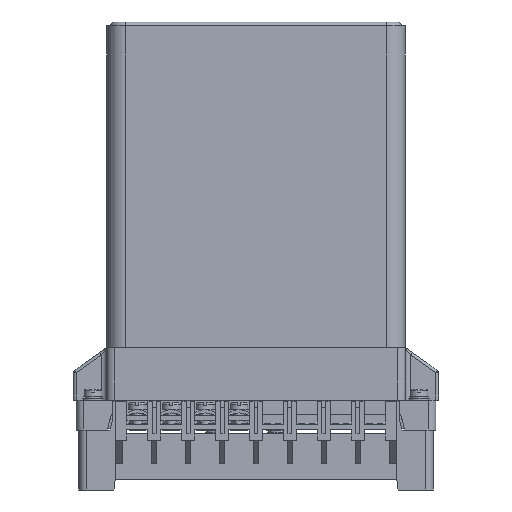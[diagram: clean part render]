
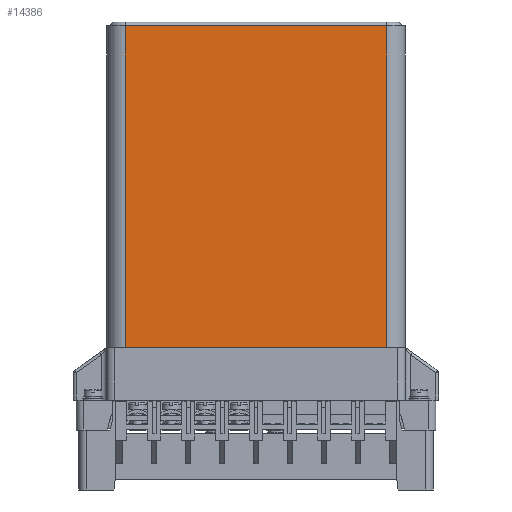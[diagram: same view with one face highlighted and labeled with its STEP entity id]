
A CAD part, left-side view. The second image highlights one B-rep face of the part: STEP entity #14386.
In plain terms, the highlighted planar face has unit normal (-1, 0, 0).
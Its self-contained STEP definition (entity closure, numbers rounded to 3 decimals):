
#14386=ADVANCED_FACE('',(#59585),#59587,.T.);
#59585=FACE_BOUND('',#59586,.T.);
#59586=EDGE_LOOP('',(#95300,#95301,#95302,#95303));
#59587=PLANE('',#59588);
#59588=AXIS2_PLACEMENT_3D('',#59589,#59590,#59591);
#59589=CARTESIAN_POINT('',(-32.15,50.15,31.5));
#59590=DIRECTION('',(-1.,0.,0.));
#59591=DIRECTION('',(0.,-1.,0.));
#95300=ORIENTED_EDGE('',*,*,#120038,.T.);
#95301=ORIENTED_EDGE('',*,*,#120763,.T.);
#95302=ORIENTED_EDGE('',*,*,#120764,.F.);
#95303=ORIENTED_EDGE('',*,*,#120765,.F.);
#120038=EDGE_CURVE('',#137762,#137760,#137763,.T.);
#120763=EDGE_CURVE('',#137760,#138979,#138981,.T.);
#120764=EDGE_CURVE('',#138982,#138979,#138983,.T.);
#120765=EDGE_CURVE('',#137762,#138982,#138984,.T.);
#137760=VERTEX_POINT('',#172365);
#137762=VERTEX_POINT('',#172370);
#137763=LINE('',#172371,#172372);
#138979=VERTEX_POINT('',#175565);
#138981=LINE('',#175570,#175571);
#138982=VERTEX_POINT('',#175573);
#138983=LINE('',#175574,#175575);
#138984=LINE('',#175577,#175578);
#172365=CARTESIAN_POINT('',(-32.15,-50.15,31.5));
#172370=CARTESIAN_POINT('',(-32.15,50.15,31.5));
#172371=CARTESIAN_POINT('',(-32.15,50.15,31.5));
#172372=VECTOR('',#172373,1.);
#172373=DIRECTION('',(0.,-1.,0.));
#175565=CARTESIAN_POINT('',(-32.15,-50.15,155.));
#175570=CARTESIAN_POINT('',(-32.15,-50.15,31.5));
#175571=VECTOR('',#175572,1.);
#175572=DIRECTION('',(0.,0.,1.));
#175573=CARTESIAN_POINT('',(-32.15,50.15,155.));
#175574=CARTESIAN_POINT('',(-32.15,50.15,155.));
#175575=VECTOR('',#175576,1.);
#175576=DIRECTION('',(0.,-1.,0.));
#175577=CARTESIAN_POINT('',(-32.15,50.15,31.5));
#175578=VECTOR('',#175579,1.);
#175579=DIRECTION('',(0.,0.,1.));
